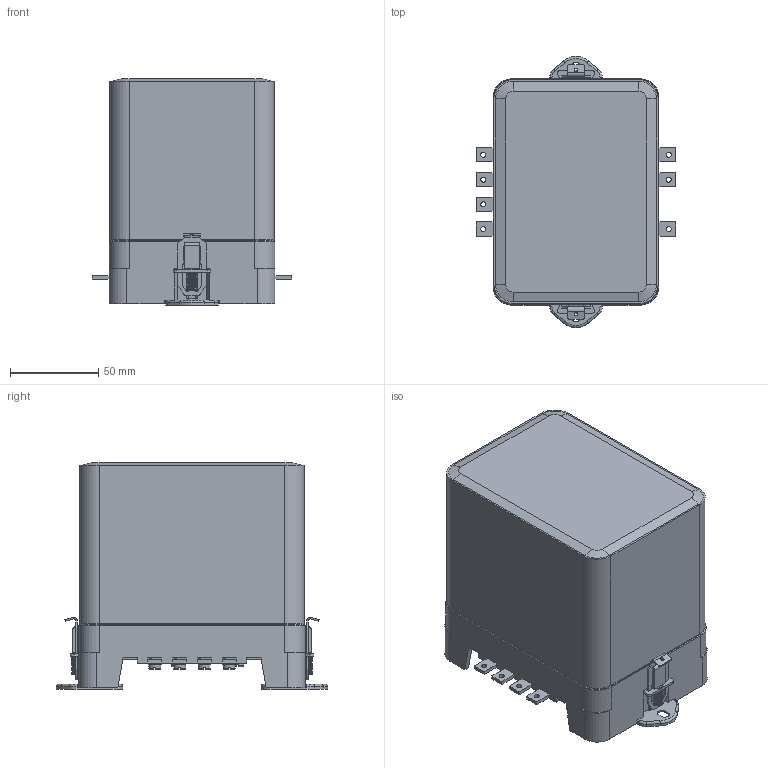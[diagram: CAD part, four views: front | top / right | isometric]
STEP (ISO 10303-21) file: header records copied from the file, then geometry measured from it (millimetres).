
FILE_DESCRIPTION(('STEP AP214'), '1');
FILE_NAME('ÐÂ217, ÐÂ227, ÐÂ237, ÐÂ247 ï.ï', '', ('UNSPECIFIED'), ('UNSPECIFIED'), 'ASCON STEP Converter 1.3', 'ASCON Math Kernel', '');
FILE_SCHEMA(('AUTOMOTIVE_DESIGN { 1 0 10303 214 3 1 1}'));
Length unit declared in the file: millimetre
Bounding box: 113 x 153.6 x 128.3 mm (x, y, z)
Volume: 226056.5 mm3; surface area: 161863.1 mm2
Topology: 2 solids, 2 shells, 1318 faces, 3405 edges, 2104 vertices
Faces by surface type: plane 751, cylinder 373, torus 128, cone 31, sphere 29, bspline 6
Full cylindrical faces by diameter (mm): 2 x2, 2.917 x7, 3.3 x7, 3.5 x2, 4 x17, 4.134 x2, 4.3 x10, 4.5 x5, 5.3 x2, 5.5 x20, 8 x3, 11 x2
Entity records: 59028 total; most frequent: CARTESIAN_POINT 16592, DIRECTION 6678, ORIENTED_EDGE 6476, EDGE_CURVE 3238, AXIS2_PLACEMENT_3D 2326, VERTEX_POINT 2098, LINE 2026, VECTOR 2026
